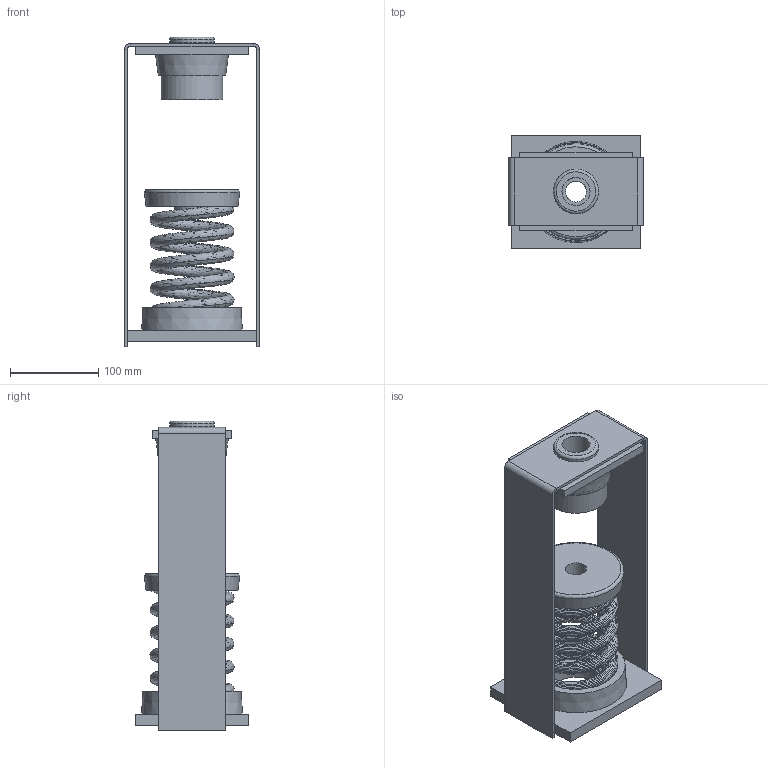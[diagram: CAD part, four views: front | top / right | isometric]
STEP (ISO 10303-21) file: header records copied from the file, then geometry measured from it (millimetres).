
FILE_DESCRIPTION(/* description */ (''),/* implementation_level */ '2;1');
FILE_NAME(/* name */ 'C:\001_Work\Designs\HANGER BOXES\30N 100 SERIES\30N-101-107, 126-129\30N-107.stp',/* time_stamp */ '2015-05-22T16:30:31-04:00',/* author */ ('rramoutar'),/* organization */ ('Mason Industries Inc.'),/* preprocessor_version */ 'ST-DEVELOPER v15.2',/* originating_system */ 'Autodesk Inventor 2014',/* authorisation */ '');
FILE_SCHEMA (('AUTOMOTIVE_DESIGN { 1 0 10303 214 3 1 1 }'));
Length unit declared in the file: inch
Products named in the file (1): 30N-107
Bounding box: 152.4 x 127 x 350.04 mm (x, y, z)
Volume: 920783.9 mm3; surface area: 440474.1 mm2
Topology: 10 solids, 10 shells, 121 faces, 247 edges, 159 vertices
Faces by surface type: plane 61, cylinder 31, bspline 22, cone 5, torus 2
Full cylindrical faces by diameter (mm): 23.812 x2, 31.75 x1, 31.996 x1, 34.925 x1, 36.8 x1, 38.1 x3, 50.8 x1, 60.325 x1, 63.5 x3, 66.675 x2, 69.85 x3, 74.612 x1, 74.9 x1, 94.456 x1, 97.631 x1, 101.6 x2
Entity records: 11909 total; most frequent: CARTESIAN_POINT 9383, DIRECTION 438, ORIENTED_EDGE 424, EDGE_CURVE 212, EDGE_LOOP 186, AXIS2_PLACEMENT_3D 174, VERTEX_POINT 156, STYLED_ITEM 131
